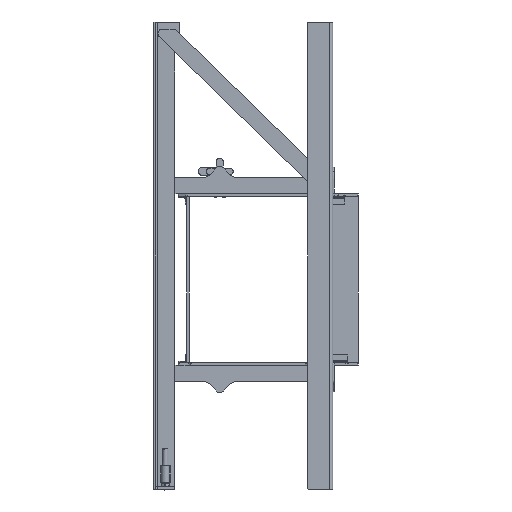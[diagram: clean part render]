
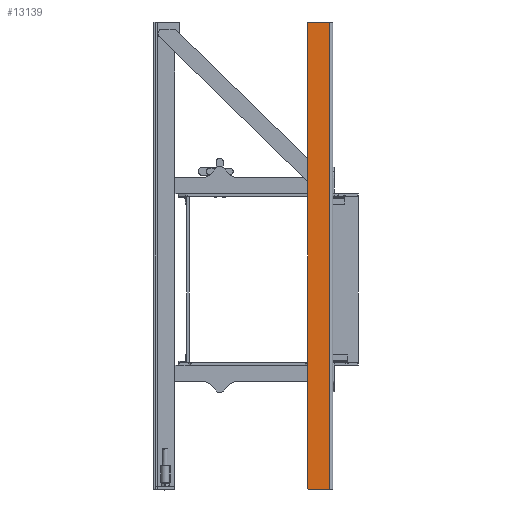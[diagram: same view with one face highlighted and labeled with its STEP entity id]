
A CAD part, left-side view. The second image highlights one B-rep face of the part: STEP entity #13139.
In plain terms, the highlighted planar face has unit normal (-1, 0, 0).
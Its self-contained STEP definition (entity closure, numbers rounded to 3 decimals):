
#1042=FACE_OUTER_BOUND('',#1773,.T.);
#1773=EDGE_LOOP('',(#10768,#10769,#10770,#10771,#10772,#10773));
#2861=LINE('',#21503,#4006);
#2867=LINE('',#21520,#4012);
#2871=LINE('',#21529,#4016);
#2872=LINE('',#21531,#4017);
#4006=VECTOR('',#17549,10.);
#4012=VECTOR('',#17571,10.);
#4016=VECTOR('',#17585,10.);
#4017=VECTOR('',#17588,10.);
#4714=CIRCLE('',#14352,2.);
#4716=CIRCLE('',#14357,2.);
#5774=VERTEX_POINT('',#21486);
#5775=VERTEX_POINT('',#21488);
#5780=VERTEX_POINT('',#21502);
#5781=VERTEX_POINT('',#21506);
#5782=VERTEX_POINT('',#21517);
#5783=VERTEX_POINT('',#21519);
#7478=EDGE_CURVE('',#5774,#5775,#4714,.T.);
#7485=EDGE_CURVE('',#5775,#5780,#2861,.T.);
#7487=EDGE_CURVE('',#5780,#5781,#4716,.T.);
#7493=EDGE_CURVE('',#5782,#5783,#2867,.T.);
#7499=EDGE_CURVE('',#5774,#5783,#2871,.T.);
#7500=EDGE_CURVE('',#5781,#5782,#2872,.T.);
#10768=ORIENTED_EDGE('',*,*,#7478,.F.);
#10769=ORIENTED_EDGE('',*,*,#7499,.T.);
#10770=ORIENTED_EDGE('',*,*,#7493,.F.);
#10771=ORIENTED_EDGE('',*,*,#7500,.F.);
#10772=ORIENTED_EDGE('',*,*,#7487,.F.);
#10773=ORIENTED_EDGE('',*,*,#7485,.F.);
#12028=PLANE('',#14373);
#13139=ADVANCED_FACE('',(#1042),#12028,.F.);
#14352=AXIS2_PLACEMENT_3D('',#21489,#17536,#17537);
#14357=AXIS2_PLACEMENT_3D('',#21507,#17553,#17554);
#14373=AXIS2_PLACEMENT_3D('',#21535,#17595,#17596);
#17536=DIRECTION('center_axis',(1.,0.,0.));
#17537=DIRECTION('ref_axis',(0.,0.707,-0.707));
#17549=DIRECTION('',(0.,0.,1.));
#17553=DIRECTION('center_axis',(1.,0.,0.));
#17554=DIRECTION('ref_axis',(0.,0.707,0.707));
#17571=DIRECTION('',(0.,0.,-1.));
#17585=DIRECTION('',(0.,-1.,0.));
#17588=DIRECTION('',(0.,-1.,0.));
#17595=DIRECTION('center_axis',(1.,0.,0.));
#17596=DIRECTION('ref_axis',(0.,0.,
-1.));
#21486=CARTESIAN_POINT('',(-90.4,150.,-879.));
#21488=CARTESIAN_POINT('',(-90.4,152.,-877.));
#21489=CARTESIAN_POINT('Origin',(-90.4,150.,-877.));
#21502=CARTESIAN_POINT('',(-90.4,152.,522.));
#21503=CARTESIAN_POINT('',(-90.4,152.,-879.));
#21506=CARTESIAN_POINT('',(-90.4,150.,524.));
#21507=CARTESIAN_POINT('Origin',(-90.4,150.,522.));
#21517=CARTESIAN_POINT('',(-90.4,86.25,524.));
#21519=CARTESIAN_POINT('',(-90.4,86.25,-879.));
#21520=CARTESIAN_POINT('',(-90.4,86.25,-177.5));
#21529=CARTESIAN_POINT('',(-90.4,152.,-879.));
#21531=CARTESIAN_POINT('',(-90.4,152.,524.));
#21535=CARTESIAN_POINT('Origin',(-90.4,87.709,-177.5));
